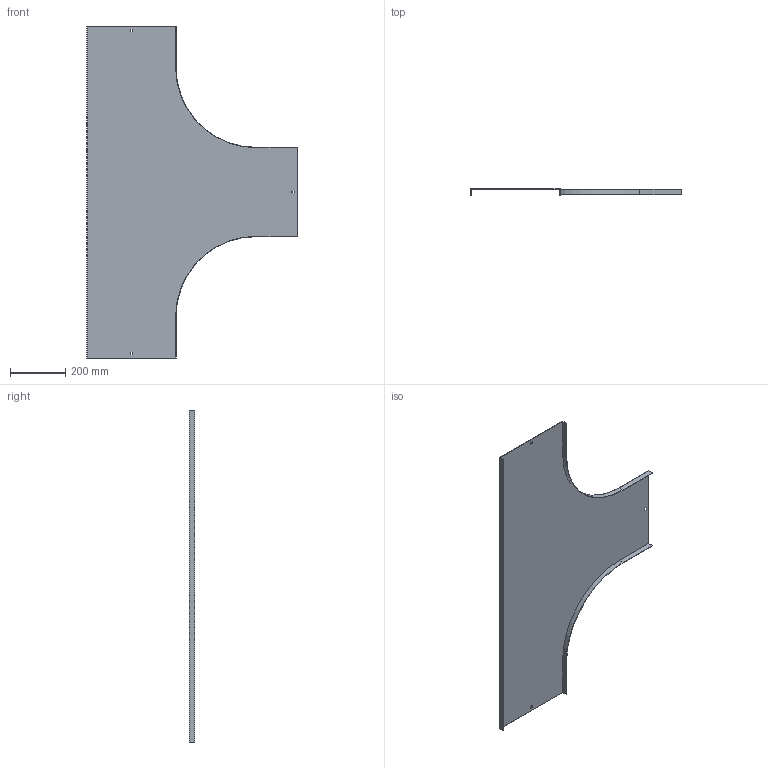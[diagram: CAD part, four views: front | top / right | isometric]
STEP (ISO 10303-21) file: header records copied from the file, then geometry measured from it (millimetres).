
FILE_DESCRIPTION (( 'STEP AP214' ), '1' );
FILE_NAME ('15N3P300.step', '2025-02-21T13:55:41', ( '' ), ( '' ), 'SwSTEP 2.0', 'SolidWorks 2023', '' );
FILE_SCHEMA (( 'AUTOMOTIVE_DESIGN' ));
Length unit declared in the file: millimetre
Products named in the file (1): 15N3P300
Bounding box: 761.5 x 20 x 1200 mm (x, y, z)
Volume: 922342 mm3; surface area: 1235608.3 mm2
Topology: 1 solids, 1 shells, 34 faces, 96 edges, 64 vertices
Faces by surface type: plane 30, cylinder 4
Entity records: 1123 total; most frequent: CARTESIAN_POINT 195, ORIENTED_EDGE 192, DIRECTION 174, EDGE_CURVE 96, LINE 88, VECTOR 88, VERTEX_POINT 64, AXIS2_PLACEMENT_3D 43
